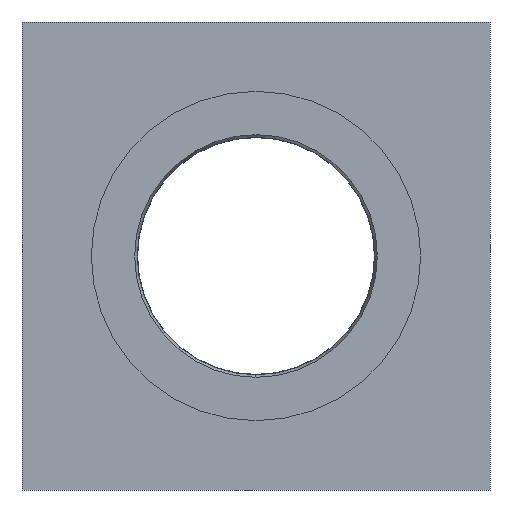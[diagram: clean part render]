
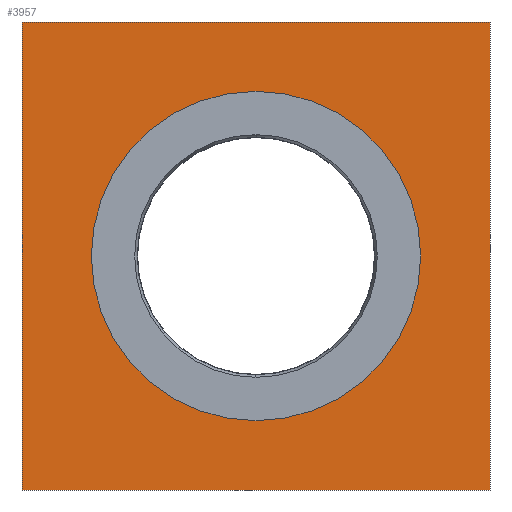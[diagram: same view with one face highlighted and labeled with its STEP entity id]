
A CAD part, front view. The second image highlights one B-rep face of the part: STEP entity #3957.
In plain terms, the highlighted planar face has unit normal (0, -1, 0).
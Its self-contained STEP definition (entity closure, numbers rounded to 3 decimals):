
#79 = LINE ( 'NONE', #219, #1819 ) ;
#159 = FACE_BOUND ( 'NONE', #3698, .T. ) ;
#219 = CARTESIAN_POINT ( 'NONE',  ( 0., -4.588, -40.5 ) ) ;
#366 = ORIENTED_EDGE ( 'NONE', *, *, #4025, .F. ) ;
#531 = DIRECTION ( 'NONE',  ( 0., 0., 1. ) ) ;
#561 = LINE ( 'NONE', #715, #4175 ) ;
#580 = CARTESIAN_POINT ( 'NONE',  ( -23.632, -4.588, 0. ) ) ;
#600 = CARTESIAN_POINT ( 'NONE',  ( 16.868, -4.588, 0. ) ) ;
#715 = CARTESIAN_POINT ( 'NONE',  ( 0., -4.588, 40.5 ) ) ;
#936 = DIRECTION ( 'NONE',  ( 0., 0., 1. ) ) ;
#948 = VECTOR ( 'NONE', #3836, 1000. ) ;
#958 = DIRECTION ( 'NONE',  ( 0., 0., 1. ) ) ;
#1062 = CARTESIAN_POINT ( 'NONE',  ( -64.132, -4.588, 0. ) ) ;
#1077 = VERTEX_POINT ( 'NONE', #3333 ) ;
#1112 = EDGE_LOOP ( 'NONE', ( #2429, #2224, #2237, #2933 ) ) ;
#1215 = CARTESIAN_POINT ( 'NONE',  ( 0., -4.588, 0. ) ) ;
#1308 = VERTEX_POINT ( 'NONE', #2666 ) ;
#1404 = EDGE_CURVE ( 'NONE', #2573, #3630, #79, .T. ) ;
#1495 = EDGE_CURVE ( 'NONE', #2892, #1077, #561, .T. ) ;
#1550 = LINE ( 'NONE', #600, #3291 ) ;
#1676 = CIRCLE ( 'NONE', #4467, 28.5 ) ;
#1737 = DIRECTION ( 'NONE',  ( 0., -1., 0. ) ) ;
#1793 = CARTESIAN_POINT ( 'NONE',  ( 16.868, -4.588, 40.5 ) ) ;
#1819 = VECTOR ( 'NONE', #1949, 1000. ) ;
#1949 = DIRECTION ( 'NONE',  ( 1., 0., 0. ) ) ;
#2029 = FACE_OUTER_BOUND ( 'NONE', #1112, .T. ) ;
#2224 = ORIENTED_EDGE ( 'NONE', *, *, #1404, .T. ) ;
#2237 = ORIENTED_EDGE ( 'NONE', *, *, #4069, .T. ) ;
#2322 = CARTESIAN_POINT ( 'NONE',  ( 16.868, -4.588, -40.5 ) ) ;
#2429 = ORIENTED_EDGE ( 'NONE', *, *, #3511, .T. ) ;
#2573 = VERTEX_POINT ( 'NONE', #3367 ) ;
#2619 = DIRECTION ( 'NONE',  ( 0., 1., 0. ) ) ;
#2666 = CARTESIAN_POINT ( 'NONE',  ( -23.632, -4.588, 28.5 ) ) ;
#2892 = VERTEX_POINT ( 'NONE', #1793 ) ;
#2933 = ORIENTED_EDGE ( 'NONE', *, *, #1495, .T. ) ;
#2994 = EDGE_CURVE ( 'NONE', #4437, #1308, #4172, .T. ) ;
#3025 = DIRECTION ( 'NONE',  ( 0., -1., 0. ) ) ;
#3050 = AXIS2_PLACEMENT_3D ( 'NONE', #1215, #2619, #531 ) ;
#3260 = ORIENTED_EDGE ( 'NONE', *, *, #2994, .F. ) ;
#3291 = VECTOR ( 'NONE', #958, 1000. ) ;
#3333 = CARTESIAN_POINT ( 'NONE',  ( -64.132, -4.588, 40.5 ) ) ;
#3367 = CARTESIAN_POINT ( 'NONE',  ( -64.132, -4.588, -40.5 ) ) ;
#3511 = EDGE_CURVE ( 'NONE', #1077, #2573, #3713, .T. ) ;
#3630 = VERTEX_POINT ( 'NONE', #2322 ) ;
#3698 = EDGE_LOOP ( 'NONE', ( #366, #3260 ) ) ;
#3713 = LINE ( 'NONE', #1062, #948 ) ;
#3760 = AXIS2_PLACEMENT_3D ( 'NONE', #3829, #1737, #4186 ) ;
#3829 = CARTESIAN_POINT ( 'NONE',  ( -23.632, -4.588, 0. ) ) ;
#3836 = DIRECTION ( 'NONE',  ( 0., 0., -1. ) ) ;
#3855 = DIRECTION ( 'NONE',  ( -1., 0., 0. ) ) ;
#3957 = ADVANCED_FACE ( 'NONE', ( #159, #2029 ), #4004, .F. ) ;
#4004 = PLANE ( 'NONE',  #3050 ) ;
#4025 = EDGE_CURVE ( 'NONE', #1308, #4437, #1676, .T. ) ;
#4069 = EDGE_CURVE ( 'NONE', #3630, #2892, #1550, .T. ) ;
#4172 = CIRCLE ( 'NONE', #3760, 28.5 ) ;
#4175 = VECTOR ( 'NONE', #3855, 1000. ) ;
#4186 = DIRECTION ( 'NONE',  ( 0., 0., 1. ) ) ;
#4282 = CARTESIAN_POINT ( 'NONE',  ( -23.632, -4.588, -28.5 ) ) ;
#4437 = VERTEX_POINT ( 'NONE', #4282 ) ;
#4467 = AXIS2_PLACEMENT_3D ( 'NONE', #580, #3025, #936 ) ;
